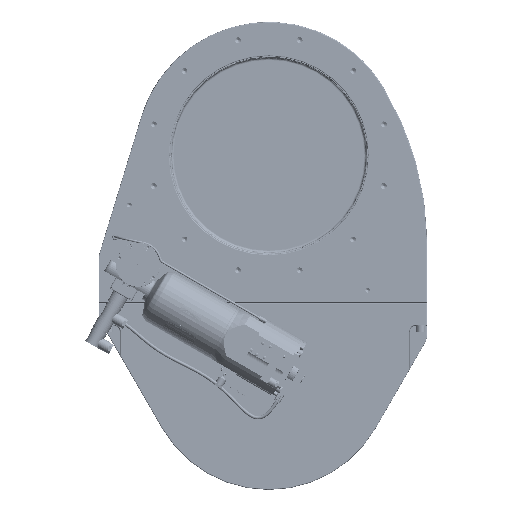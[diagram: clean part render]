
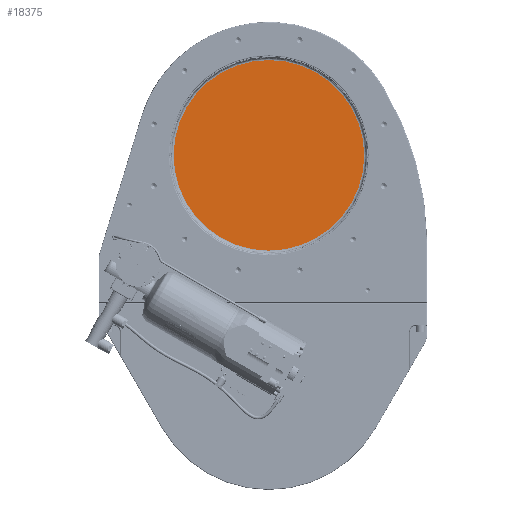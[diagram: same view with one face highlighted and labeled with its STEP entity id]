
A CAD part, top view. The second image highlights one B-rep face of the part: STEP entity #18375.
In plain terms, the highlighted planar face has unit normal (0, 0, 1) as drawn and (0, 0, -1) by its records, which use the part's own axes.
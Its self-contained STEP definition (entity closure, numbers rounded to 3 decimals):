
#15238=FACE_OUTER_BOUND('',#40179,.T.);
#18375=ADVANCED_FACE('',(#15238),#23063,.F.);
#23063=PLANE('',#87818);
#40179=EDGE_LOOP('',(#46884));
#46884=ORIENTED_EDGE('',*,*,#74492,.F.);
#67173=VERTEX_POINT('',#116113);
#74492=EDGE_CURVE('',#67173,#67173,#84600,.T.);
#84600=CIRCLE('',#87816,168.005);
#87816=AXIS2_PLACEMENT_3D('',#116112,#95645,#95646);
#87818=AXIS2_PLACEMENT_3D('',#116115,#95649,#95650);
#95645=DIRECTION('',(0.,0.,1.));
#95646=DIRECTION('',(1.,0.,0.));
#95649=DIRECTION('',(0.,0.,1.));
#95650=DIRECTION('',(1.,0.,0.));
#116112=CARTESIAN_POINT('',(0.,-301.17,5.75));
#116113=CARTESIAN_POINT('',(168.005,-301.17,5.75));
#116115=CARTESIAN_POINT('',(0.,-301.17,5.75));
